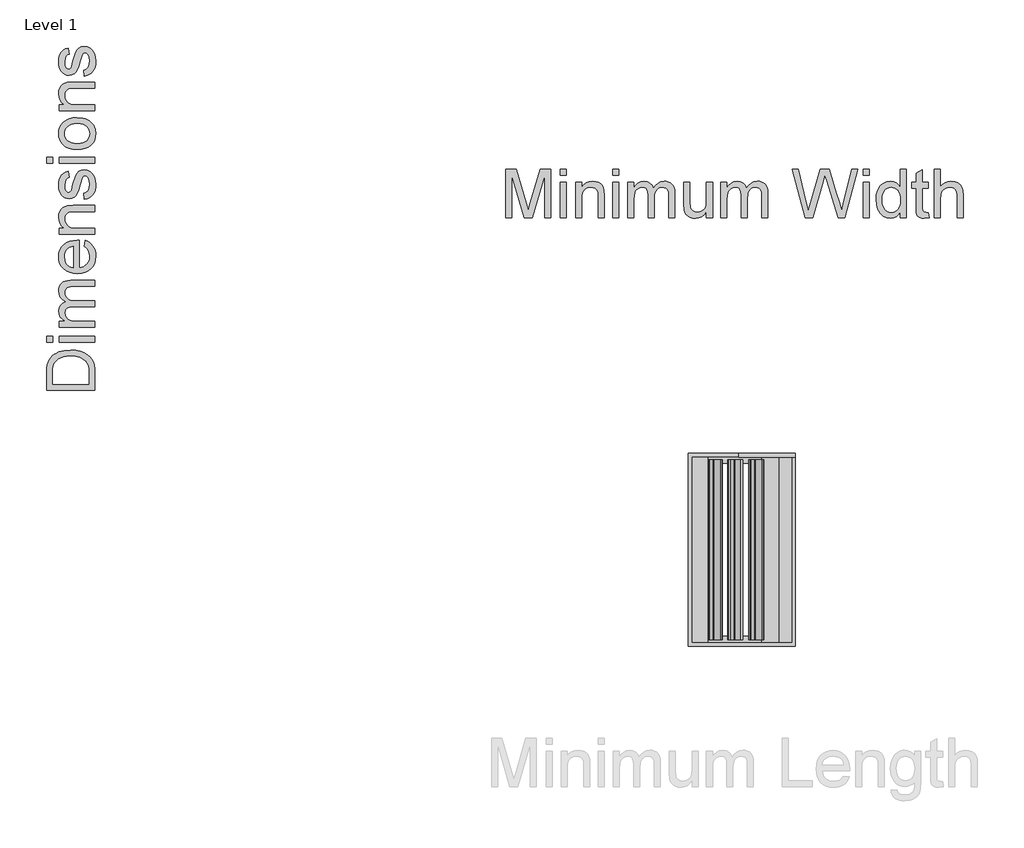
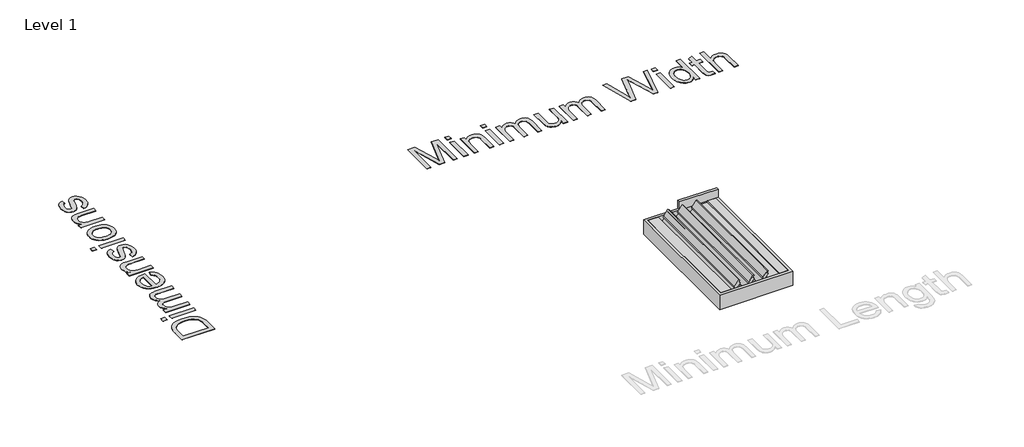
# One storey, part 2 of 12: 3 proxies.
"""IFC4 building model written with IfcOpenShell, lengths in millimetres."""

from ifc_helpers import new_model, si_unit, origin, origin_with_axes, place, context, project, spatial, polyline, outline, extrude, transform, mapped, element, save
from components import generic_models_0f79cfca

model = new_model("IFC4")

# Units and contexts
model_context = context("Model", 3, world=origin())
ifc_project = project(units=[si_unit("LENGTHUNIT", "METRE", prefix="MILLI")], contexts=[model_context])

# Site, building, storey
site = spatial("IfcSite", under=ifc_project)
building = spatial("IfcBuilding", under=site)
storey = spatial("IfcBuildingStorey", under=building, Name="Level 1", Elevation=0.0)

# Proxies
placement = place(None, origin())
generic_models_shape = generic_models_0f79cfca(model_context)
element("IfcBuildingElementProxy", 1, Name="Renson_Aero_Patio covers : Aero - Single", ObjectType="Renson_Aero_Patio covers : Aero - Single", at=placement, inside=storey, context=model_context, shape_type="MappedRepresentation", body=[
    mapped(generic_models_shape, transform((-9286.834943, -14298.4078371, 0.0), x_axis=(1.0, 0.0, 0.0), y_axis=(0.0, 1.0, 0.0), z_axis=(0.0, 0.0, 1.0))),
])
element("IfcBuildingElementProxy", 2, Name="500mm Arial", ObjectType="500mm Arial", at=placement, inside=storey, context=model_context, shape_type="SweptSolid", body=[
    extrude(outline(polyline([(-15994.8554904, -12643.4429339), (-16497.1370411, -12643.4429339), (-16497.1370411, -12470.1705141), (-16495.328288, -12418.3911233), (-16489.9020286, -12380.5299347), (-16475.9531696, -12340.4921108), (-16453.9722204, -12306.708281), (-16436.0073163, -12288.0919192), (-16415.7124929, -12271.9740892), (-16393.0877502, -12258.3547912), (-16368.1330882, -12247.2340251), (-16312.1537112, -12232.4267748), (-16248.6940671, -12227.4910247), (-16194.7840264, -12230.8326195), (-16147.3425774, -12240.8574038), (-16106.9522, -12256.1245066), (-16074.195374, -12275.1930567), (-16048.3363354, -12297.1433491), (-16028.6393203, -12321.0556788), (-16014.0313394, -12348.5088727), (-16003.4394036, -12381.0817576), (-15997.0014687, -12418.8356474), (-15994.8554904, -12461.8318556), (-15994.8554904, -12643.4429339)]), holes=[polyline([(-16057.6406842, -12580.65774), (-16057.6406842, -12469.5573775), (-16059.9092899, -12423.6027849), (-16066.7151068, -12388.7459659), (-16077.6595961, -12362.4424032), (-16092.3442191, -12342.1475798), (-16119.5215015, -12320.3352432), (-16154.7002173, -12303.949166), (-16198.0336506, -12293.6944554), (-16249.6750857, -12290.2762185), (-16286.1260601, -12291.950848), (-16318.1011368, -12296.9747365), (-16345.600316, -12305.347884), (-16368.6235975, -12317.0702905), (-16387.6921476, -12331.1915942), (-16403.3271324, -12346.7614332), (-16415.5285519, -12363.7798076), (-16424.2964061, -12382.2467173), (-16431.837987, -12418.3604665), (-16434.3518473, -12471.2741601), (-16434.3518473, -12580.65774), (-16057.6406842, -12580.65774)])]), origin_with_axes(), (0.0, 0.0, 1.0), 5.0),
    extrude(outline(polyline([(-16434.3518473, -12149.0095324), (-16497.1370411, -12149.0095324), (-16497.1370411, -12086.2243385), (-16434.3518473, -12086.2243385), (-16434.3518473, -12149.0095324)])), origin_with_axes(), (0.0, 0.0, 1.0), 5.0),
    extrude(outline(polyline([(-15994.8554904, -12149.0095324), (-16363.7185042, -12149.0095324), (-16363.7185042, -12086.2243385), (-15994.8554904, -12086.2243385), (-15994.8554904, -12149.0095324)])), origin_with_axes(), (0.0, 0.0, 1.0), 5.0),
    extrude(outline(polyline([(-15994.8554904, -11992.0465477), (-16363.7185042, -11992.0465477), (-16363.7185042, -11929.2613539), (-16303.017975, -11929.2613539), (-16330.9003646, -11910.3767448), (-16352.743358, -11886.0965331), (-16366.8608296, -11857.2484533), (-16371.5666535, -11824.6602399), (-16366.7688591, -11789.7421072), (-16352.375476, -11761.7524188), (-16329.3368661, -11740.8444587), (-16298.6033911, -11727.1715112), (-16330.5248184, -11704.2861854), (-16353.3258379, -11678.1818922), (-16367.0064496, -11648.8586315), (-16371.5666535, -11616.3164033), (-16369.6697619, -11591.1816324), (-16363.9790873, -11569.120209), (-16354.4946296, -11550.1321331), (-16341.2163889, -11534.2174048), (-16323.9910809, -11521.6366069), (-16302.6654214, -11512.6503228), (-16277.2394106, -11507.2585523), (-16247.7130484, -11505.4612955), (-15994.8554904, -11505.4612955), (-15994.8554904, -11568.2464893), (-16220.7350354, -11568.2464893), (-16252.0509903, -11569.7026889), (-16273.1582197, -11574.0712876), (-16287.6129165, -11582.256662), (-16298.9712731, -11595.1631886), (-16306.328913, -11611.7638637), (-16308.7814596, -11631.0316831), (-16307.2102969, -11648.8241426), (-16302.4968089, -11665.0454393), (-16294.6409954, -11679.6955733), (-16283.6428566, -11692.7745447), (-16269.1804957, -11703.5312609), (-16250.9320159, -11711.2146297), (-16228.8974172, -11715.8246509), (-16203.0766997, -11717.3613247), (-15994.8554904, -11717.3613247), (-15994.8554904, -11780.1465185), (-16227.7247933, -11780.1465185), (-16263.2254059, -11783.7793532), (-16288.5479499, -11794.6778573), (-16297.4001104, -11803.1046543), (-16303.7230822, -11813.8537063), (-16308.7814596, -11842.3185757), (-16305.409208, -11866.5068169), (-16295.2924531, -11888.7943344), (-16278.6764497, -11907.1884342), (-16255.8064523, -11919.696422), (-16224.0766302, -11926.8701209), (-16180.8811526, -11929.2613539), (-15994.8554904, -11929.2613539), (-15994.8554904, -11992.0465477)])), origin_with_axes(), (0.0, 0.0, 1.0), 5.0),
    extrude(outline(polyline([(-16104.7295796, -11153.0303441), (-16096.8814304, -11091.4714236), (-16072.2256725, -11100.909896), (-16050.4976422, -11113.6516422), (-16031.6973394, -11129.6966621), (-16015.8247641, -11149.0449558), (-16003.2171416, -11171.4972538), (-15994.2116969, -11196.8542868), (-15988.8084301, -11225.1160546), (-15987.0073412, -11256.2825574), (-15990.1151776, -11295.2397278), (-15999.4386869, -11329.9509269), (-16014.9778691, -11360.4161547), (-16036.7327242, -11386.635411), (-16064.0977797, -11407.7196479), (-16096.4675631, -11422.779817), (-16133.8420746, -11431.8159186), (-16176.221314, -11434.8279524), (-16220.0375925, -11431.7852617), (-16258.6575378, -11422.6571897), (-16292.0811499, -11407.4437364), (-16320.3084288, -11386.1449017), (-16342.7339021, -11359.9946232), (-16358.7520973, -11330.2268384), (-16368.3630144, -11296.8415474), (-16371.5666535, -11259.83875), (-16368.3706786, -11224.027737), (-16358.7827541, -11191.6426252), (-16342.80288, -11162.6834144), (-16320.4310561, -11137.1501046), (-16292.2650909, -11116.3072903), (-16258.9027924, -11101.4195658), (-16220.3441608, -11092.4869311), (-16176.589196, -11089.5093862), (-16159.6666242, -11089.8772682), (-16159.6666242, -11372.0427585), (-16134.6123275, -11368.4060917), (-16112.6696994, -11361.1749113), (-16093.8387397, -11350.3492171), (-16078.1194486, -11335.9290094), (-16065.7264239, -11318.7113656), (-16056.8742634, -11299.4933634), (-16051.5629671, -11278.2750029), (-16049.792535, -11255.0562841), (-16053.0728161, -11221.6403362), (-16062.9136595, -11193.4973636), (-16079.9282018, -11170.6273662), (-16104.7295796, -11153.0303441)]), holes=[polyline([(-16222.4518181, -11372.0427585), (-16222.4518181, -11152.2945801), (-16255.6225113, -11160.7865228), (-16279.3509, -11177.4331831), (-16292.2267698, -11194.5550243), (-16301.4238197, -11214.0374416), (-16306.9420496, -11235.8804351), (-16308.7814596, -11260.0840047), (-16302.9106761, -11302.4057625), (-16295.5721967, -11320.8190228), (-16285.2983256, -11337.4005373), (-16272.5642436, -11351.3149074), (-16257.8451317, -11361.7267343), (-16241.1409899, -11368.636018), (-16222.4518181, -11372.0427585)])]), origin_with_axes(), (0.0, 0.0, 1.0), 5.0),
    extrude(outline(polyline([(-15994.8554904, -11026.7241924), (-16363.7185042, -11026.7241924), (-16363.7185042, -10963.9389986), (-16312.2150249, -10963.9389986), (-16338.1813624, -10942.1266619), (-16356.7287463, -10915.9303982), (-16367.8571767, -10885.3502073), (-16371.5666535, -10850.3860894), (-16368.5776122, -10819.4380165), (-16359.6104886, -10791.0957745), (-16345.784257, -10767.4593563), (-16328.2178917, -10750.628755), (-16306.9573781, -10739.2090848), (-16282.0487013, -10731.8054596), (-16221.3481721, -10728.4945216), (-15994.8554904, -10728.4945216), (-15994.8554904, -10791.2797155), (-16212.8868862, -10791.2797155), (-16245.3524723, -10793.0884686), (-16268.4370675, -10798.5147281), (-16284.9764288, -10808.524184), (-16297.8063134, -10824.0825267), (-16306.0376731, -10844.0247965), (-16308.7814596, -10867.1860338), (-16307.2409538, -10886.2507518), (-16302.6194362, -10903.9589049), (-16294.9169069, -10920.3104932), (-16284.1333659, -10935.3055166), (-16269.0425399, -10947.832665), (-16248.4181556, -10956.7806281), (-16222.2602129, -10962.1494059), (-16190.5687118, -10963.9389986), (-15994.8554904, -10963.9389986), (-15994.8554904, -11026.7241924)])), origin_with_axes(), (0.0, 0.0, 1.0), 5.0),
    extrude(outline(polyline([(-16104.7295796, -10665.7093278), (-16112.5777289, -10602.924134), (-16085.7223432, -10593.0219769), (-16065.9793428, -10573.8614563), (-16053.839237, -10545.3199449), (-16049.792535, -10507.2748152), (-16053.5020118, -10469.689538), (-16064.6304421, -10443.2633481), (-16080.7559363, -10427.6283633), (-16099.4566044, -10422.4167017), (-16115.4594711, -10427.6590201), (-16127.6608907, -10443.3859754), (-16145.5644811, -10508.0105792), (-16162.1344993, -10565.3082), (-16176.2826277, -10602.556252), (-16191.7183431, -10626.4839101), (-16212.1511222, -10643.8203491), (-16236.2780497, -10654.3509712), (-16262.7962102, -10657.8611786), (-16287.1224071, -10655.0407499), (-16309.5785373, -10646.5794641), (-16329.2755524, -10633.2437417), (-16345.3244045, -10615.8000038), (-16355.4258309, -10598.4635648), (-16363.9024452, -10575.8848073), (-16369.6506014, -10549.7805141), (-16371.5666535, -10521.8674677), (-16368.4856417, -10481.0019094), (-16359.2426066, -10445.47064), (-16344.7419246, -10416.8984717), (-16325.8879724, -10396.9102167), (-16301.285864, -10383.6664648), (-16269.5407135, -10375.3278063), (-16261.6925642, -10438.1130001), (-16281.4508931, -10446.0377914), (-16296.3347854, -10461.7187615), (-16305.6697911, -10485.3091944), (-16308.7814596, -10516.9623744), (-16305.8077468, -10553.0148099), (-16296.8866084, -10577.049767), (-16284.0107386, -10590.5694303), (-16269.1728315, -10595.0759847), (-16259.5159291, -10593.2059179), (-16250.901359, -10587.5957175), (-16243.206494, -10578.0001288), (-16237.0444706, -10564.1738971), (-16223.6780914, -10510.0952438), (-16194.1249045, -10417.9408041), (-16179.9921045, -10393.5992787), (-16160.6476429, -10375.1438653), (-16136.030206, -10363.5095972), (-16106.0784803, -10359.6315078), (-16075.115079, -10364.1840475), (-16045.9910877, -10377.8416666), (-16020.9904405, -10400.0831989), (-16002.3970713, -10430.3874782), (-15990.8547737, -10466.9917367), (-15987.0073412, -10508.1332065), (-15988.8620796, -10541.9247006), (-15994.4262947, -10571.4395665), (-16003.6999867, -10596.6778043), (-16016.6831554, -10617.6394138), (-16033.3144873, -10634.761255), (-16053.5326686, -10648.4801877), (-16077.3376994, -10658.796212), (-16104.7295796, -10665.7093278)])), origin_with_axes(), (0.0, 0.0, 1.0), 5.0),
    extrude(outline(polyline([(-16434.3518473, -10288.9981647), (-16497.1370411, -10288.9981647), (-16497.1370411, -10226.2129709), (-16434.3518473, -10226.2129709), (-16434.3518473, -10288.9981647)])), origin_with_axes(), (0.0, 0.0, 1.0), 5.0),
    extrude(outline(polyline([(-15994.8554904, -10288.9981647), (-16363.7185042, -10288.9981647), (-16363.7185042, -10226.2129709), (-15994.8554904, -10226.2129709), (-15994.8554904, -10288.9981647)])), origin_with_axes(), (0.0, 0.0, 1.0), 5.0),
    extrude(outline(polyline([(-16179.2869973, -10147.7314786), (-16227.0580072, -10144.3362343), (-16268.2224696, -10134.1505016), (-16302.7803846, -10117.1742804), (-16330.731752, -10093.4075706), (-16348.5970214, -10069.4799125), (-16361.3579281, -10043.069051), (-16369.0144721, -10014.1749859), (-16371.5666535, -9982.7977174), (-16368.458817, -9948.1593283), (-16359.1353077, -9916.8395414), (-16343.5961255, -9888.8383566), (-16321.8412704, -9864.155774), (-16294.6065065, -9844.0104026), (-16262.6275976, -9829.6208517), (-16225.9045439, -9820.9871211), (-16184.4373452, -9818.1092109), (-16121.0083579, -9823.1982452), (-16094.9730425, -9829.559538), (-16072.723846, -9838.465348), (-16053.5058439, -9849.8045441), (-16036.5641116, -9863.4659952), (-16021.8986491, -9879.4497015), (-16009.5094565, -9897.7556629), (-15992.63287, -9938.4832654), (-15987.0073412, -9982.7977174), (-15990.1036813, -10017.9419443), (-15999.3927017, -10049.5529711), (-16014.8744023, -10077.630798), (-16036.5487832, -10102.1754249), (-16064.0479623, -10122.1061984), (-16097.0040577, -10136.3424652), (-16135.4170694, -10144.8842252), (-16179.2869973, -10147.7314786)]), holes=[polyline([(-16179.4096246, -10084.9462848), (-16148.9558932, -10083.1298674), (-16122.5871848, -10077.6806153), (-16100.3034994, -10068.5985286), (-16082.1048369, -10055.8836071), (-16067.9682048, -10040.4172349), (-16057.8706105, -10023.0807959), (-16051.8120539, -10003.8742901), (-16049.792535, -9982.7977174), (-16051.8235502, -9961.8284437), (-16057.9165957, -9942.6985799), (-16068.0716716, -9925.4081262), (-16082.2887779, -9909.9570824), (-16100.6675493, -9897.2421609), (-16123.3076204, -9888.1600742), (-16150.2089913, -9882.7108221), (-16181.371662, -9880.8944048), (-16210.8597031, -9882.7223184), (-16236.5386328, -9888.2060594), (-16258.408451, -9897.3456277), (-16276.4691577, -9910.1410234), (-16290.6057898, -9925.6495487), (-16300.7033841, -9942.9285062), (-16306.7619407, -9961.9778958), (-16308.7814596, -9982.7977174), (-16306.769605, -10003.8742901), (-16300.734041, -10023.0807959), (-16290.6747677, -10040.4172349), (-16276.591785, -10055.8836071), (-16258.446772, -10068.5985286), (-16236.2014076, -10077.6806153), (-16209.8556918, -10083.1298674), (-16179.4096246, -10084.9462848)])]), origin_with_axes(), (0.0, 0.0, 1.0), 5.0),
    extrude(outline(polyline([(-15994.8554904, -9747.4758678), (-16363.7185042, -9747.4758678), (-16363.7185042, -9684.690674), (-16312.2150249, -9684.690674), (-16338.1813624, -9662.8783374), (-16356.7287463, -9636.6820736), (-16367.8571767, -9606.1018828), (-16371.5666535, -9571.1377648), (-16368.5776122, -9540.189692), (-16359.6104886, -9511.8474499), (-16345.784257, -9488.2110317), (-16328.2178917, -9471.3804305), (-16306.9573781, -9459.9607602), (-16282.0487013, -9452.557135), (-16221.3481721, -9449.2461971), (-15994.8554904, -9449.2461971), (-15994.8554904, -9512.0313909), (-16212.8868862, -9512.0313909), (-16245.3524723, -9513.8401441), (-16268.4370675, -9519.2664035), (-16284.9764288, -9529.2758595), (-16297.8063134, -9544.8342022), (-16306.0376731, -9564.776472), (-16308.7814596, -9587.9377093), (-16307.2409538, -9607.0024272), (-16302.6194362, -9624.7105804), (-16294.9169069, -9641.0621686), (-16284.1333659, -9656.057192), (-16269.0425399, -9668.5843404), (-16248.4181556, -9677.5323035), (-16222.2602129, -9682.9010814), (-16190.5687118, -9684.690674), (-15994.8554904, -9684.690674), (-15994.8554904, -9747.4758678)])), origin_with_axes(), (0.0, 0.0, 1.0), 5.0),
    extrude(outline(polyline([(-16104.7295796, -9386.4610032), (-16112.5777289, -9323.6758094), (-16085.7223432, -9313.7736524), (-16065.9793428, -9294.6131318), (-16053.839237, -9266.0716203), (-16049.792535, -9228.0264907), (-16053.5020118, -9190.4412135), (-16064.6304421, -9164.0150235), (-16080.7559363, -9148.3800387), (-16099.4566044, -9143.1683771), (-16115.4594711, -9148.4106955), (-16127.6608907, -9164.1376508), (-16145.5644811, -9228.7622546), (-16162.1344993, -9286.0598754), (-16176.2826277, -9323.3079274), (-16191.7183431, -9347.2355855), (-16212.1511222, -9364.5720245), (-16236.2780497, -9375.1026466), (-16262.7962102, -9378.612854), (-16287.1224071, -9375.7924254), (-16309.5785373, -9367.3311395), (-16329.2755524, -9353.9954172), (-16345.3244045, -9336.5516792), (-16355.4258309, -9319.2152402), (-16363.9024452, -9296.6364828), (-16369.6506014, -9270.5321895), (-16371.5666535, -9242.6191431), (-16368.4856417, -9201.7535848), (-16359.2426066, -9166.2223155), (-16344.7419246, -9137.6501472), (-16325.8879724, -9117.6618921), (-16301.285864, -9104.4181403), (-16269.5407135, -9096.0794817), (-16261.6925642, -9158.8646756), (-16281.4508931, -9166.7894669), (-16296.3347854, -9182.4704369), (-16305.6697911, -9206.0608699), (-16308.7814596, -9237.7140499), (-16305.8077468, -9273.7664854), (-16296.8866084, -9297.8014424), (-16284.0107386, -9311.3211057), (-16269.1728315, -9315.8276602), (-16259.5159291, -9313.9575934), (-16250.901359, -9308.3473929), (-16243.206494, -9298.7518042), (-16237.0444706, -9284.9255726), (-16223.6780914, -9230.8469193), (-16194.1249045, -9138.6924795), (-16179.9921045, -9114.3509541), (-16160.6476429, -9095.8955407), (-16136.030206, -9084.2612726), (-16106.0784803, -9080.3831833), (-16075.115079, -9084.9357229), (-16045.9910877, -9098.593342), (-16020.9904405, -9120.8348743), (-16002.3970713, -9151.1391537), (-15990.8547737, -9187.7434122), (-15987.0073412, -9228.884882), (-15988.8620796, -9262.6763761), (-15994.4262947, -9292.191242), (-16003.6999867, -9317.4294797), (-16016.6831554, -9338.3910892), (-16033.3144873, -9355.5129304), (-16053.5326686, -9369.2318631), (-16077.3376994, -9379.5478874), (-16104.7295796, -9386.4610032)])), origin_with_axes(), (0.0, 0.0, 1.0), 5.0),
])
element("IfcBuildingElementProxy", 3, Name="500mm Arial", ObjectType="500mm Arial", at=placement, inside=storey, context=model_context, shape_type="SweptSolid", body=[
    extrude(outline(polyline([(-11733.7317664, -10854.1927147), (-11733.7317664, -10351.911164), (-11625.6970872, -10351.911164), (-11522.9353832, -10705.9362707), (-11502.2113641, -10779.8805517), (-11479.7705624, -10699.8049041), (-11378.7256411, -10351.911164), (-11270.6909618, -10351.911164), (-11270.6909618, -10854.1927147), (-11333.4761557, -10854.1927147), (-11333.4761557, -10414.6963578), (-11459.65968, -10854.1927147), (-11544.7630483, -10854.1927147), (-11670.9465726, -10414.6963578), (-11670.9465726, -10854.1927147), (-11733.7317664, -10854.1927147)])), origin_with_axes(), (0.0, 0.0, 1.0), 5.0),
    extrude(outline(polyline([(-11168.6650219, -10854.1927147), (-11168.6650219, -10485.3297009), (-11105.879828, -10485.3297009), (-11105.879828, -10854.1927147), (-11168.6650219, -10854.1927147)])), origin_with_axes(), (0.0, 0.0, 1.0), 5.0),
    extrude(outline(polyline([(-11168.6650219, -10414.6963578), (-11168.6650219, -10351.911164), (-11105.879828, -10351.911164), (-11105.879828, -10414.6963578), (-11168.6650219, -10414.6963578)])), origin_with_axes(), (0.0, 0.0, 1.0), 5.0),
    extrude(outline(polyline([(-11011.7020372, -10854.1927147), (-11011.7020372, -10485.3297009), (-10948.9168434, -10485.3297009), (-10948.9168434, -10536.8331802), (-10927.1045068, -10510.8668427), (-10900.908243, -10492.3194588), (-10870.3280522, -10481.1910284), (-10835.3639342, -10477.4815516), (-10804.4158614, -10480.4705929), (-10776.0736193, -10489.4377165), (-10752.4372011, -10503.2639481), (-10735.6065999, -10520.8303134), (-10724.1869296, -10542.0908271), (-10716.7833044, -10566.9995038), (-10713.4723665, -10627.700033), (-10713.4723665, -10854.1927147), (-10776.2575603, -10854.1927147), (-10776.2575603, -10636.1613189), (-10778.0663135, -10603.6957328), (-10783.4925729, -10580.6111376), (-10793.5020289, -10564.0717763), (-10809.0603716, -10551.2418917), (-10829.0026414, -10543.010532), (-10852.1638787, -10540.2667455), (-10871.2285966, -10541.8072513), (-10888.9367498, -10546.4287689), (-10905.288338, -10554.1312982), (-10920.2833614, -10564.9148392), (-10932.8105098, -10580.0056652), (-10941.7584729, -10600.6300495), (-10947.1272508, -10626.7879922), (-10948.9168434, -10658.4794933), (-10948.9168434, -10854.1927147), (-11011.7020372, -10854.1927147)])), origin_with_axes(), (0.0, 0.0, 1.0), 5.0),
    extrude(outline(polyline([(-10627.142725, -10414.6963578), (-10627.142725, -10351.911164), (-10564.3575311, -10351.911164), (-10564.3575311, -10414.6963578), (-10627.142725, -10414.6963578)])), origin_with_axes(), (0.0, 0.0, 1.0), 5.0),
    extrude(outline(polyline([(-10627.142725, -10854.1927147), (-10627.142725, -10485.3297009), (-10564.3575311, -10485.3297009), (-10564.3575311, -10854.1927147), (-10627.142725, -10854.1927147)])), origin_with_axes(), (0.0, 0.0, 1.0), 5.0),
    extrude(outline(polyline([(-10470.1797403, -10854.1927147), (-10470.1797403, -10485.3297009), (-10407.3945465, -10485.3297009), (-10407.3945465, -10546.0302301), (-10388.5099374, -10518.1478405), (-10364.2297257, -10496.3048471), (-10335.3816459, -10482.1873755), (-10302.7934325, -10477.4815516), (-10267.8752998, -10482.279346), (-10239.8856114, -10496.6727291), (-10218.9776513, -10519.711339), (-10205.3047038, -10550.444814), (-10182.419378, -10518.5233867), (-10156.3150848, -10495.7223672), (-10126.9918241, -10482.0417555), (-10094.4495959, -10477.4815516), (-10069.314825, -10479.3784432), (-10047.2534016, -10485.0691178), (-10028.2653257, -10494.5535755), (-10012.3505973, -10507.8318163), (-9999.7697995, -10525.0571243), (-9990.7835154, -10546.3827837), (-9985.3917449, -10571.8087945), (-9983.5944881, -10601.3351567), (-9983.5944881, -10854.1927147), (-10046.3796819, -10854.1927147), (-10046.3796819, -10628.3131697), (-10047.8358815, -10596.9972148), (-10052.2044802, -10575.8899854), (-10060.3898545, -10561.4352886), (-10073.2963812, -10550.076932), (-10089.8970562, -10542.7192921), (-10109.1648757, -10540.2667455), (-10126.9573352, -10541.8379082), (-10143.1786319, -10546.5513962), (-10157.8287659, -10554.4072097), (-10170.9077373, -10565.4053485), (-10181.6644535, -10579.8677094), (-10189.3478223, -10598.1161892), (-10193.9578435, -10620.1507879), (-10195.4945173, -10645.9715054), (-10195.4945173, -10854.1927147), (-10258.2797111, -10854.1927147), (-10258.2797111, -10621.3234118), (-10261.9125458, -10585.8227992), (-10272.8110499, -10560.5002552), (-10281.2378469, -10551.6480947), (-10291.9868989, -10545.3251229), (-10320.4517683, -10540.2667455), (-10344.6400095, -10543.6389971), (-10366.927527, -10553.755752), (-10385.3216268, -10570.3717554), (-10397.8296146, -10593.2417528), (-10405.0033135, -10624.9715749), (-10407.3945465, -10668.1670525), (-10407.3945465, -10854.1927147), (-10470.1797403, -10854.1927147)])), origin_with_axes(), (0.0, 0.0, 1.0), 5.0),
    extrude(outline(polyline([(-9653.9722204, -10854.1927147), (-9653.9722204, -10790.7943842), (-9676.6889336, -10821.9647191), (-9703.1457804, -10844.229244), (-9733.3427608, -10857.587959), (-9767.2798749, -10862.0408639), (-9797.8600657, -10858.913867), (-9826.3249351, -10849.5328761), (-9850.206608, -10835.430733), (-9867.0372093, -10818.1402792), (-9878.364909, -10797.1403486), (-9885.7378773, -10771.9097751), (-9889.4166973, -10713.5391652), (-9889.4166973, -10485.3297009), (-9826.6315034, -10485.3297009), (-9826.6315034, -10683.9859783), (-9822.8300562, -10747.9974454), (-9813.6789915, -10769.3499296), (-9797.9980215, -10785.5827226), (-9776.8294783, -10795.8374332), (-9751.2156944, -10799.2556701), (-9724.1303825, -10795.7607911), (-9698.7925101, -10785.2761543), (-9677.8998785, -10768.7674497), (-9664.1502889, -10747.2003678), (-9656.5167375, -10717.6625093), (-9653.9722204, -10677.241475), (-9653.9722204, -10485.3297009), (-9591.1870265, -10485.3297009), (-9591.1870265, -10854.1927147), (-9653.9722204, -10854.1927147)])), origin_with_axes(), (0.0, 0.0, 1.0), 5.0),
    extrude(outline(polyline([(-9504.857385, -10854.1927147), (-9504.857385, -10485.3297009), (-9442.0721912, -10485.3297009), (-9442.0721912, -10546.0302301), (-9423.1875821, -10518.1478405), (-9398.9073704, -10496.3048471), (-9370.0592906, -10482.1873755), (-9337.4710772, -10477.4815516), (-9302.5529445, -10482.279346), (-9274.563256, -10496.6727291), (-9253.655296, -10519.711339), (-9239.9823485, -10550.444814), (-9217.0970227, -10518.5233867), (-9190.9927294, -10495.7223672), (-9161.6694687, -10482.0417555), (-9129.1272406, -10477.4815516), (-9103.9924697, -10479.3784432), (-9081.9310463, -10485.0691178), (-9062.9429704, -10494.5535755), (-9047.028242, -10507.8318163), (-9034.4474442, -10525.0571243), (-9025.46116, -10546.3827837), (-9020.0693895, -10571.8087945), (-9018.2721327, -10601.3351567), (-9018.2721327, -10854.1927147), (-9081.0573266, -10854.1927147), (-9081.0573266, -10628.3131697), (-9082.5135261, -10596.9972148), (-9086.8821248, -10575.8899854), (-9095.0674992, -10561.4352886), (-9107.9740259, -10550.076932), (-9124.5747009, -10542.7192921), (-9143.8425204, -10540.2667455), (-9161.6349798, -10541.8379082), (-9177.8562765, -10546.5513962), (-9192.5064106, -10554.4072097), (-9205.5853819, -10565.4053485), (-9216.3420982, -10579.8677094), (-9224.0254669, -10598.1161892), (-9228.6354882, -10620.1507879), (-9230.1721619, -10645.9715054), (-9230.1721619, -10854.1927147), (-9292.9573558, -10854.1927147), (-9292.9573558, -10621.3234118), (-9296.5901905, -10585.8227992), (-9307.4886946, -10560.5002552), (-9315.9154915, -10551.6480947), (-9326.6645436, -10545.3251229), (-9355.129413, -10540.2667455), (-9379.3176541, -10543.6389971), (-9401.6051717, -10553.755752), (-9419.9992714, -10570.3717554), (-9432.5072593, -10593.2417528), (-9439.6809582, -10624.9715749), (-9442.0721912, -10668.1670525), (-9442.0721912, -10854.1927147), (-9504.857385, -10854.1927147)])), origin_with_axes(), (0.0, 0.0, 1.0), 5.0),
    extrude(outline(polyline([(-8630.1566278, -10854.1927147), (-8767.1313573, -10351.911164), (-8702.3841262, -10351.911164), (-8622.9216152, -10682.023941), (-8598.3961489, -10783.9272536), (-8572.1538999, -10693.7961648), (-8472.5805065, -10351.911164), (-8379.2611071, -10351.911164), (-8306.9109814, -10599.7410014), (-8275.9169233, -10691.7115002), (-8253.0775827, -10783.9272536), (-8229.2878804, -10684.9669969), (-8149.0896054, -10351.911164), (-8084.3423743, -10351.911164), (-8221.4397312, -10854.1927147), (-8288.5168816, -10854.1927147), (-8408.9369214, -10466.6903465), (-8425.7368658, -10412.6116932), (-8444.6214749, -10477.7268063), (-8554.3729368, -10854.1927147), (-8630.1566278, -10854.1927147)])), origin_with_axes(), (0.0, 0.0, 1.0), 5.0),
    extrude(outline(polyline([(-8029.4053297, -10414.6963578), (-8029.4053297, -10351.911164), (-7966.6201358, -10351.911164), (-7966.6201358, -10414.6963578), (-8029.4053297, -10414.6963578)])), origin_with_axes(), (0.0, 0.0, 1.0), 5.0),
    extrude(outline(polyline([(-8029.4053297, -10854.1927147), (-8029.4053297, -10485.3297009), (-7966.6201358, -10485.3297009), (-7966.6201358, -10854.1927147), (-8029.4053297, -10854.1927147)])), origin_with_axes(), (0.0, 0.0, 1.0), 5.0),
    extrude(outline(polyline([(-7644.8460174, -10854.1927147), (-7644.8460174, -10794.9637135), (-7663.6309918, -10824.3099668), (-7686.386026, -10845.2715763), (-7713.1111201, -10857.848542), (-7743.8062741, -10862.0408639), (-7784.3959209, -10855.970811), (-7821.5520024, -10837.7606523), (-7853.005913, -10808.6826462), (-7876.489047, -10770.0090515), (-7891.1123563, -10723.3033665), (-7895.9867928, -10670.1290898), (-7891.4955667, -10617.613935), (-7878.0218887, -10570.1878144), (-7867.9204622, -10549.0575923), (-7855.581087, -10530.5485295), (-7841.0037629, -10514.6606258), (-7824.18849, -10501.3938813), (-7786.2200024, -10483.4596341), (-7744.0515288, -10477.4815516), (-7713.3333822, -10481.7581798), (-7686.1714282, -10494.5880644), (-7663.1481466, -10514.2544228), (-7644.8460174, -10539.0404722), (-7644.8460174, -10351.911164), (-7582.0608235, -10351.911164), (-7582.0608235, -10854.1927147), (-7644.8460174, -10854.1927147)]), holes=[polyline([(-7833.2015989, -10669.8838351), (-7831.4311668, -10700.3299023), (-7826.1198705, -10726.6756181), (-7817.26771, -10748.9209825), (-7804.8746853, -10767.0659955), (-7790.0750992, -10781.1489781), (-7774.0032545, -10791.2082515), (-7756.6591513, -10797.2438154), (-7738.0427895, -10799.2556701), (-7719.3382893, -10797.3357859), (-7702.0976529, -10791.5761334), (-7686.3208802, -10781.9767126), (-7672.0079714, -10768.5375235), (-7660.1246165, -10751.1512671), (-7651.6365059, -10729.7106446), (-7646.5436395, -10704.2156559), (-7644.8460174, -10674.6663011), (-7646.5742963, -10642.2696929), (-7651.7591332, -10614.486938), (-7660.400528, -10591.3180365), (-7672.4984807, -10572.7629884), (-7687.1256221, -10558.5458821), (-7703.354583, -10548.3908062), (-7721.1853635, -10542.2977607), (-7740.6179635, -10540.2667455), (-7759.6022073, -10542.2172865), (-7776.9463105, -10548.0689095), (-7792.6502732, -10557.8216145), (-7806.7140953, -10571.4754014), (-7818.3023781, -10589.3291745), (-7826.579723, -10611.6818378), (-7831.5461299, -10638.5333914), (-7833.2015989, -10669.8838351)])]), origin_with_axes(), (0.0, 0.0, 1.0), 5.0),
    extrude(outline(polyline([(-7354.4644959, -10801.8308441), (-7346.6163466, -10856.0321247), (-7393.5826147, -10862.0408639), (-7423.7182815, -10859.4350331), (-7446.18974, -10851.6175407), (-7462.0699794, -10839.5694054), (-7472.431989, -10824.2716458), (-7478.1341599, -10797.9987399), (-7480.0348835, -10753.025166), (-7480.0348835, -10548.1148947), (-7527.1237789, -10548.1148947), (-7527.1237789, -10485.3297009), (-7480.0348835, -10485.3297009), (-7480.0348835, -10395.6891214), (-7417.2496897, -10358.7782945), (-7417.2496897, -10485.3297009), (-7354.4644959, -10485.3297009), (-7354.4644959, -10548.1148947), (-7417.2496897, -10548.1148947), (-7417.2496897, -10751.1857561), (-7413.9387517, -10783.5593716), (-7403.2088602, -10795.0250272), (-7381.8103908, -10799.2556701), (-7354.4644959, -10801.8308441)])), origin_with_axes(), (0.0, 0.0, 1.0), 5.0),
    extrude(outline(polyline([(-7291.679302, -10854.1927147), (-7291.679302, -10351.911164), (-7228.8941082, -10351.911164), (-7228.8941082, -10536.5879255), (-7205.8325056, -10510.728887), (-7179.935146, -10492.2581451), (-7151.2020293, -10481.1757), (-7119.6331556, -10477.4815516), (-7081.7106533, -10481.5129252), (-7049.1224399, -10493.6070458), (-7023.4626707, -10512.8135516), (-7006.3255011, -10538.1820809), (-6996.6685987, -10573.0388999), (-6993.4496313, -10620.7102751), (-6993.4496313, -10854.1927147), (-7056.2348251, -10854.1927147), (-7056.2348251, -10627.2095237), (-7061.2318889, -10587.9074639), (-7067.4782186, -10572.9009441), (-7076.2230802, -10560.9907646), (-7087.25954, -10551.9240062), (-7100.3806645, -10545.4477503), (-7132.8769074, -10540.2667455), (-7159.4103963, -10543.7616244), (-7184.3190731, -10554.2462613), (-7204.9511217, -10570.7089806), (-7218.654726, -10592.1381068), (-7226.3342626, -10620.6183046), (-7228.8941082, -10658.2342386), (-7228.8941082, -10854.1927147), (-7291.679302, -10854.1927147)])), origin_with_axes(), (0.0, 0.0, 1.0), 5.0),
])

save(model, "model.ifc")
